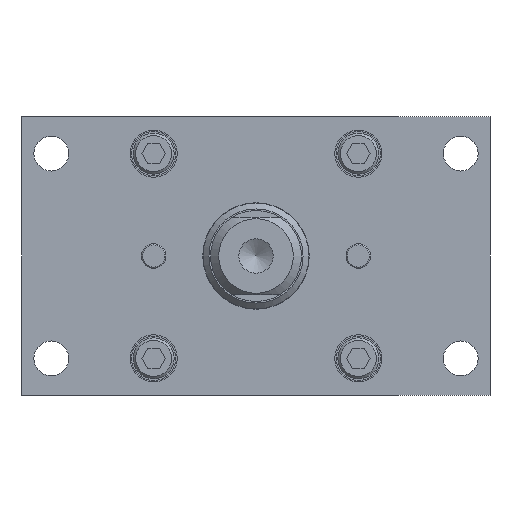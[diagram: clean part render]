
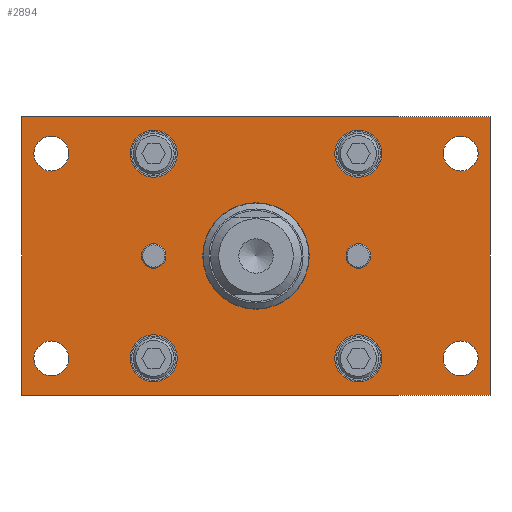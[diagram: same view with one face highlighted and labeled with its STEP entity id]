
A CAD part, front view. The second image highlights one B-rep face of the part: STEP entity #2894.
In plain terms, the highlighted planar face has unit normal (0, -1, 0) as drawn and (0, 0, -1) by its records, which use the part's own axes.
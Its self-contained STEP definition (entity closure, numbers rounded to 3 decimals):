
#165=FACE_BOUND('',#612,.T.);
#166=FACE_BOUND('',#613,.T.);
#167=FACE_BOUND('',#614,.T.);
#168=FACE_BOUND('',#615,.T.);
#169=FACE_BOUND('',#616,.T.);
#170=FACE_BOUND('',#617,.T.);
#171=FACE_BOUND('',#618,.T.);
#172=FACE_BOUND('',#619,.T.);
#173=FACE_BOUND('',#620,.T.);
#174=FACE_BOUND('',#621,.T.);
#175=FACE_BOUND('',#622,.T.);
#256=PLANE('',#3471);
#411=FACE_OUTER_BOUND('',#611,.T.);
#611=EDGE_LOOP('',(#2410,#2411,#2412,#2413));
#612=EDGE_LOOP('',(#2414));
#613=EDGE_LOOP('',(#2415,#2416));
#614=EDGE_LOOP('',(#2417,#2418));
#615=EDGE_LOOP('',(#2419,#2420));
#616=EDGE_LOOP('',(#2421,#2422));
#617=EDGE_LOOP('',(#2423,#2424));
#618=EDGE_LOOP('',(#2425,#2426));
#619=EDGE_LOOP('',(#2427,#2428));
#620=EDGE_LOOP('',(#2429,#2430));
#621=EDGE_LOOP('',(#2431,#2432));
#622=EDGE_LOOP('',(#2433,#2434));
#795=LINE('',#5209,#946);
#799=LINE('',#5217,#950);
#802=LINE('',#5223,#953);
#805=LINE('',#5228,#956);
#946=VECTOR('',#4238,10.);
#950=VECTOR('',#4244,10.);
#953=VECTOR('',#4249,10.);
#956=VECTOR('',#4254,10.);
#1103=CIRCLE('',#3388,12.992);
#1107=CIRCLE('',#3394,3.);
#1108=CIRCLE('',#3395,3.);
#1110=CIRCLE('',#3398,3.);
#1111=CIRCLE('',#3399,3.);
#1118=CIRCLE('',#3409,4.25);
#1119=CIRCLE('',#3410,4.25);
#1121=CIRCLE('',#3413,4.25);
#1122=CIRCLE('',#3414,4.25);
#1124=CIRCLE('',#3417,4.25);
#1125=CIRCLE('',#3418,4.25);
#1127=CIRCLE('',#3421,4.25);
#1128=CIRCLE('',#3422,4.25);
#1136=CIRCLE('',#3435,5.75);
#1137=CIRCLE('',#3436,5.75);
#1142=CIRCLE('',#3444,5.75);
#1143=CIRCLE('',#3445,5.75);
#1148=CIRCLE('',#3453,5.75);
#1149=CIRCLE('',#3454,5.75);
#1154=CIRCLE('',#3462,5.75);
#1155=CIRCLE('',#3463,5.75);
#1368=VERTEX_POINT('',#5056);
#1372=VERTEX_POINT('',#5067);
#1373=VERTEX_POINT('',#5068);
#1375=VERTEX_POINT('',#5075);
#1376=VERTEX_POINT('',#5076);
#1383=VERTEX_POINT('',#5096);
#1384=VERTEX_POINT('',#5097);
#1386=VERTEX_POINT('',#5104);
#1387=VERTEX_POINT('',#5105);
#1389=VERTEX_POINT('',#5112);
#1390=VERTEX_POINT('',#5113);
#1392=VERTEX_POINT('',#5120);
#1393=VERTEX_POINT('',#5121);
#1401=VERTEX_POINT('',#5146);
#1402=VERTEX_POINT('',#5147);
#1407=VERTEX_POINT('',#5163);
#1408=VERTEX_POINT('',#5164);
#1413=VERTEX_POINT('',#5180);
#1414=VERTEX_POINT('',#5181);
#1419=VERTEX_POINT('',#5197);
#1420=VERTEX_POINT('',#5198);
#1422=VERTEX_POINT('',#5207);
#1423=VERTEX_POINT('',#5208);
#1426=VERTEX_POINT('',#5216);
#1428=VERTEX_POINT('',#5222);
#1708=EDGE_CURVE('',#1368,#1368,#1103,.T.);
#1713=EDGE_CURVE('',#1372,#1373,#1107,.T.);
#1714=EDGE_CURVE('',#1373,#1372,#1108,.T.);
#1717=EDGE_CURVE('',#1375,#1376,#1110,.T.);
#1718=EDGE_CURVE('',#1376,#1375,#1111,.T.);
#1727=EDGE_CURVE('',#1383,#1384,#1118,.T.);
#1728=EDGE_CURVE('',#1384,#1383,#1119,.T.);
#1731=EDGE_CURVE('',#1386,#1387,#1121,.T.);
#1732=EDGE_CURVE('',#1387,#1386,#1122,.T.);
#1735=EDGE_CURVE('',#1389,#1390,#1124,.T.);
#1736=EDGE_CURVE('',#1390,#1389,#1125,.T.);
#1739=EDGE_CURVE('',#1392,#1393,#1127,.T.);
#1740=EDGE_CURVE('',#1393,#1392,#1128,.T.);
#1751=EDGE_CURVE('',#1401,#1402,#1136,.T.);
#1752=EDGE_CURVE('',#1402,#1401,#1137,.T.);
#1759=EDGE_CURVE('',#1407,#1408,#1142,.T.);
#1760=EDGE_CURVE('',#1408,#1407,#1143,.T.);
#1767=EDGE_CURVE('',#1413,#1414,#1148,.T.);
#1768=EDGE_CURVE('',#1414,#1413,#1149,.T.);
#1775=EDGE_CURVE('',#1419,#1420,#1154,.T.);
#1776=EDGE_CURVE('',#1420,#1419,#1155,.T.);
#1780=EDGE_CURVE('',#1422,#1423,#795,.T.);
#1784=EDGE_CURVE('',#1426,#1422,#799,.T.);
#1787=EDGE_CURVE('',#1428,#1426,#802,.T.);
#1790=EDGE_CURVE('',#1423,#1428,#805,.T.);
#2410=ORIENTED_EDGE('',*,*,#1790,.F.);
#2411=ORIENTED_EDGE('',*,*,#1780,.F.);
#2412=ORIENTED_EDGE('',*,*,#1784,.F.);
#2413=ORIENTED_EDGE('',*,*,#1787,.F.);
#2414=ORIENTED_EDGE('',*,*,#1708,.T.);
#2415=ORIENTED_EDGE('',*,*,#1713,.T.);
#2416=ORIENTED_EDGE('',*,*,#1714,.T.);
#2417=ORIENTED_EDGE('',*,*,#1717,.T.);
#2418=ORIENTED_EDGE('',*,*,#1718,.T.);
#2419=ORIENTED_EDGE('',*,*,#1727,.T.);
#2420=ORIENTED_EDGE('',*,*,#1728,.T.);
#2421=ORIENTED_EDGE('',*,*,#1731,.T.);
#2422=ORIENTED_EDGE('',*,*,#1732,.T.);
#2423=ORIENTED_EDGE('',*,*,#1735,.T.);
#2424=ORIENTED_EDGE('',*,*,#1736,.T.);
#2425=ORIENTED_EDGE('',*,*,#1739,.T.);
#2426=ORIENTED_EDGE('',*,*,#1740,.T.);
#2427=ORIENTED_EDGE('',*,*,#1751,.T.);
#2428=ORIENTED_EDGE('',*,*,#1752,.T.);
#2429=ORIENTED_EDGE('',*,*,#1759,.T.);
#2430=ORIENTED_EDGE('',*,*,#1760,.T.);
#2431=ORIENTED_EDGE('',*,*,#1767,.T.);
#2432=ORIENTED_EDGE('',*,*,#1768,.T.);
#2433=ORIENTED_EDGE('',*,*,#1775,.T.);
#2434=ORIENTED_EDGE('',*,*,#1776,.T.);
#2894=ADVANCED_FACE('',(#411,#165,#166,#167,#168,#169,#170,#171,#172,#173,
#174,#175),#256,.F.);
#3388=AXIS2_PLACEMENT_3D('',#5057,#4062,#4063);
#3394=AXIS2_PLACEMENT_3D('',#5069,#4075,#4076);
#3395=AXIS2_PLACEMENT_3D('',#5070,#4077,#4078);
#3398=AXIS2_PLACEMENT_3D('',#5077,#4084,#4085);
#3399=AXIS2_PLACEMENT_3D('',#5078,#4086,#4087);
#3409=AXIS2_PLACEMENT_3D('',#5098,#4108,#4109);
#3410=AXIS2_PLACEMENT_3D('',#5099,#4110,#4111);
#3413=AXIS2_PLACEMENT_3D('',#5106,#4117,#4118);
#3414=AXIS2_PLACEMENT_3D('',#5107,#4119,#4120);
#3417=AXIS2_PLACEMENT_3D('',#5114,#4126,#4127);
#3418=AXIS2_PLACEMENT_3D('',#5115,#4128,#4129);
#3421=AXIS2_PLACEMENT_3D('',#5122,#4135,#4136);
#3422=AXIS2_PLACEMENT_3D('',#5123,#4137,#4138);
#3435=AXIS2_PLACEMENT_3D('',#5148,#4166,#4167);
#3436=AXIS2_PLACEMENT_3D('',#5149,#4168,#4169);
#3444=AXIS2_PLACEMENT_3D('',#5165,#4186,#4187);
#3445=AXIS2_PLACEMENT_3D('',#5166,#4188,#4189);
#3453=AXIS2_PLACEMENT_3D('',#5182,#4206,#4207);
#3454=AXIS2_PLACEMENT_3D('',#5183,#4208,#4209);
#3462=AXIS2_PLACEMENT_3D('',#5199,#4226,#4227);
#3463=AXIS2_PLACEMENT_3D('',#5200,#4228,#4229);
#3471=AXIS2_PLACEMENT_3D('',#5231,#4258,#4259);
#4062=DIRECTION('center_axis',(0.,0.,1.));
#4063=DIRECTION('ref_axis',(1.,0.,0.));
#4075=DIRECTION('center_axis',(0.,0.,1.));
#4076=DIRECTION('ref_axis',(-1.,0.,0.));
#4077=DIRECTION('center_axis',(0.,0.,1.));
#4078=DIRECTION('ref_axis',(-1.,0.,0.));
#4084=DIRECTION('center_axis',(0.,0.,1.));
#4085=DIRECTION('ref_axis',(-1.,0.,0.));
#4086=DIRECTION('center_axis',(0.,0.,1.));
#4087=DIRECTION('ref_axis',(-1.,0.,0.));
#4108=DIRECTION('center_axis',(0.,0.,1.));
#4109=DIRECTION('ref_axis',(-1.,0.,0.));
#4110=DIRECTION('center_axis',(0.,0.,1.));
#4111=DIRECTION('ref_axis',(-1.,0.,0.));
#4117=DIRECTION('center_axis',(0.,0.,1.));
#4118=DIRECTION('ref_axis',(-1.,0.,0.));
#4119=DIRECTION('center_axis',(0.,0.,1.));
#4120=DIRECTION('ref_axis',(-1.,0.,0.));
#4126=DIRECTION('center_axis',(0.,0.,1.));
#4127=DIRECTION('ref_axis',(-1.,0.,0.));
#4128=DIRECTION('center_axis',(0.,0.,1.));
#4129=DIRECTION('ref_axis',(-1.,0.,0.));
#4135=DIRECTION('center_axis',(0.,0.,1.));
#4136=DIRECTION('ref_axis',(-1.,0.,0.));
#4137=DIRECTION('center_axis',(0.,0.,1.));
#4138=DIRECTION('ref_axis',(-1.,0.,0.));
#4166=DIRECTION('center_axis',(0.,0.,1.));
#4167=DIRECTION('ref_axis',(-1.,0.,0.));
#4168=DIRECTION('center_axis',(0.,0.,1.));
#4169=DIRECTION('ref_axis',(-1.,0.,0.));
#4186=DIRECTION('center_axis',(0.,0.,1.));
#4187=DIRECTION('ref_axis',(-1.,0.,0.));
#4188=DIRECTION('center_axis',(0.,0.,1.));
#4189=DIRECTION('ref_axis',(-1.,0.,0.));
#4206=DIRECTION('center_axis',(0.,0.,1.));
#4207=DIRECTION('ref_axis',(-1.,0.,0.));
#4208=DIRECTION('center_axis',(0.,0.,1.));
#4209=DIRECTION('ref_axis',(-1.,0.,0.));
#4226=DIRECTION('center_axis',(0.,0.,1.));
#4227=DIRECTION('ref_axis',(-1.,0.,0.));
#4228=DIRECTION('center_axis',(0.,0.,1.));
#4229=DIRECTION('ref_axis',(-1.,0.,0.));
#4238=DIRECTION('',(-1.,0.,0.));
#4244=DIRECTION('',(0.,1.,0.));
#4249=DIRECTION('',(1.,0.,0.));
#4254=DIRECTION('',(0.,-1.,0.));
#4258=DIRECTION('center_axis',(0.,0.,1.));
#4259=DIRECTION('ref_axis',(1.,0.,0.));
#5056=CARTESIAN_POINT('',(-12.992,0.,0.));
#5057=CARTESIAN_POINT('Origin',(0.,0.,0.));
#5067=CARTESIAN_POINT('',(-28.,0.,0.));
#5068=CARTESIAN_POINT('',(-22.,0.,0.));
#5069=CARTESIAN_POINT('Origin',(-25.,0.,0.));
#5070=CARTESIAN_POINT('Origin',(-25.,0.,0.));
#5075=CARTESIAN_POINT('',(22.,0.,0.));
#5076=CARTESIAN_POINT('',(28.,0.,0.));
#5077=CARTESIAN_POINT('Origin',(25.,0.,0.));
#5078=CARTESIAN_POINT('Origin',(25.,0.,0.));
#5096=CARTESIAN_POINT('',(45.75,25.,0.));
#5097=CARTESIAN_POINT('',(54.25,25.,0.));
#5098=CARTESIAN_POINT('Origin',(50.,25.,0.));
#5099=CARTESIAN_POINT('Origin',(50.,25.,0.));
#5104=CARTESIAN_POINT('',(-54.25,-25.,0.));
#5105=CARTESIAN_POINT('',(-45.75,-25.,0.));
#5106=CARTESIAN_POINT('Origin',(-50.,-25.,0.));
#5107=CARTESIAN_POINT('Origin',(-50.,-25.,0.));
#5112=CARTESIAN_POINT('',(-54.25,25.,0.));
#5113=CARTESIAN_POINT('',(-45.75,25.,0.));
#5114=CARTESIAN_POINT('Origin',(-50.,25.,0.));
#5115=CARTESIAN_POINT('Origin',(-50.,25.,0.));
#5120=CARTESIAN_POINT('',(45.75,-25.,0.));
#5121=CARTESIAN_POINT('',(54.25,-25.,0.));
#5122=CARTESIAN_POINT('Origin',(50.,-25.,0.));
#5123=CARTESIAN_POINT('Origin',(50.,-25.,0.));
#5146=CARTESIAN_POINT('',(19.25,25.,0.));
#5147=CARTESIAN_POINT('',(30.75,25.,0.));
#5148=CARTESIAN_POINT('Origin',(25.,25.,0.));
#5149=CARTESIAN_POINT('Origin',(25.,25.,0.));
#5163=CARTESIAN_POINT('',(-30.75,-25.,0.));
#5164=CARTESIAN_POINT('',(-19.25,-25.,0.));
#5165=CARTESIAN_POINT('Origin',(-25.,-25.,0.));
#5166=CARTESIAN_POINT('Origin',(-25.,-25.,0.));
#5180=CARTESIAN_POINT('',(19.25,-25.,0.));
#5181=CARTESIAN_POINT('',(30.75,-25.,0.));
#5182=CARTESIAN_POINT('Origin',(25.,-25.,0.));
#5183=CARTESIAN_POINT('Origin',(25.,-25.,0.));
#5197=CARTESIAN_POINT('',(-30.75,25.,0.));
#5198=CARTESIAN_POINT('',(-19.25,25.,0.));
#5199=CARTESIAN_POINT('Origin',(-25.,25.,0.));
#5200=CARTESIAN_POINT('Origin',(-25.,25.,0.));
#5207=CARTESIAN_POINT('',(57.15,34.,0.));
#5208=CARTESIAN_POINT('',(-57.15,34.,0.));
#5209=CARTESIAN_POINT('',(57.15,34.,0.));
#5216=CARTESIAN_POINT('',(57.15,-34.,0.));
#5217=CARTESIAN_POINT('',(57.15,-34.,0.));
#5222=CARTESIAN_POINT('',(-57.15,-34.,0.));
#5223=CARTESIAN_POINT('',(-57.15,-34.,0.));
#5228=CARTESIAN_POINT('',(-57.15,34.,0.));
#5231=CARTESIAN_POINT('Origin',(0.,0.,
0.));
